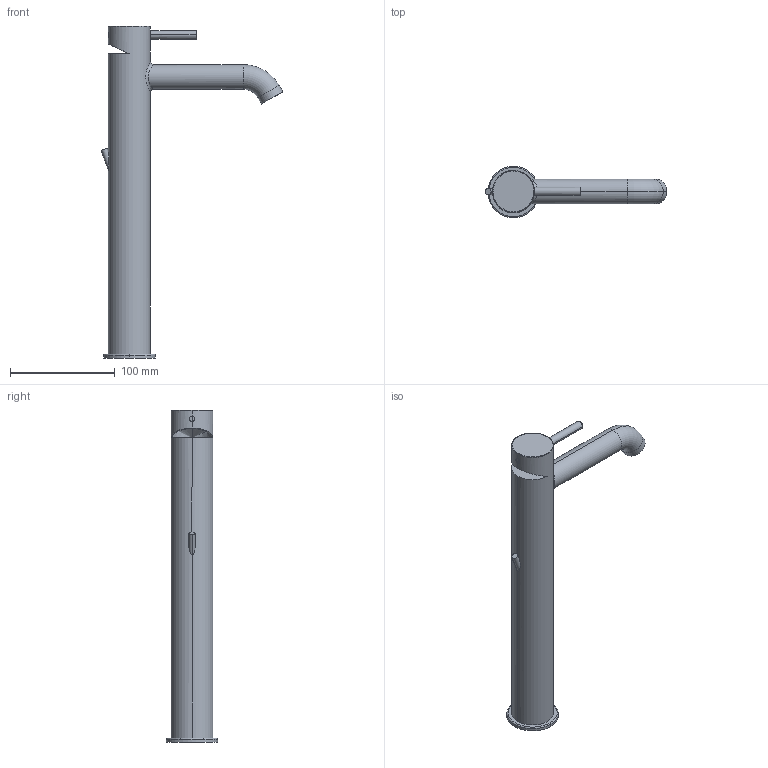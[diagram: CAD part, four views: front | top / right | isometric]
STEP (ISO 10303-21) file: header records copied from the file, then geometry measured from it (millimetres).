
FILE_DESCRIPTION (( 'STEP AP203' ), '1' );
FILE_NAME ('02301810 x architetti.STEP', '2023-10-20T15:20:45', ( '' ), ( '' ), 'SwSTEP 2.0', 'SolidWorks 2020', '' );
FILE_SCHEMA (( 'CONFIG_CONTROL_DESIGN' ));
Length unit declared in the file: millimetre
Products named in the file (1): 02301810 x architetti
Bounding box: 173.16 x 49 x 316.4 mm (x, y, z)
Volume: 449889.2 mm3; surface area: 58687.9 mm2
Topology: 1 solids, 4 shells, 64 faces, 158 edges, 101 vertices
Faces by surface type: cylinder 25, bspline 16, plane 10, torus 8, cone 5
Entity records: 6381 total; most frequent: CARTESIAN_POINT 4999, ORIENTED_EDGE 316, DIRECTION 217, EDGE_CURVE 158, VERTEX_POINT 101, AXIS2_PLACEMENT_3D 94, EDGE_LOOP 67, ADVANCED_FACE 64
